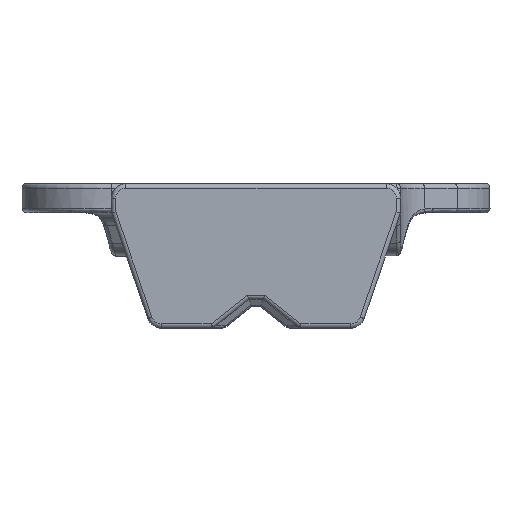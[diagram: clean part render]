
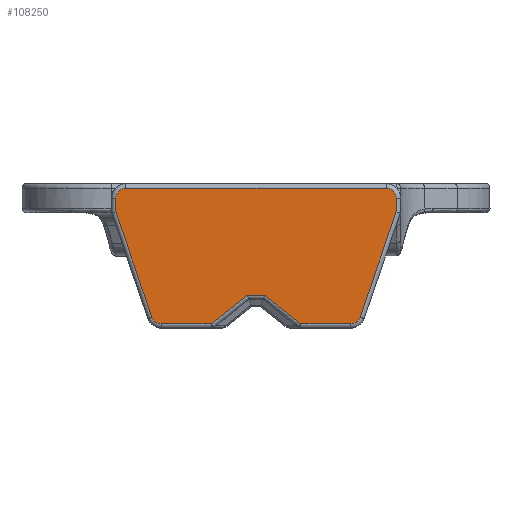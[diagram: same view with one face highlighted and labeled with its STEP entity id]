
A CAD part, left-side view. The second image highlights one B-rep face of the part: STEP entity #108250.
In plain terms, the highlighted planar face has unit normal (-1, 0, 0) as drawn and (1, 0, 0) by its records, which use the part's own axes.
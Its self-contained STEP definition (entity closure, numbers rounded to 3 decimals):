
#130=CARTESIAN_POINT('',(52.95,0.605,
2.1));
#140=VERTEX_POINT('',#130);
#300=CARTESIAN_POINT('',(52.95,-0.605,
2.1));
#310=VERTEX_POINT('',#300);
#340=CARTESIAN_POINT('',(52.95,0.,
2.1));
#350=DIRECTION('',(0.,1.,0.));
#360=VECTOR('',#350,1.);
#370=LINE('',#340,#360);
#380=EDGE_CURVE('',#310,#140,#370,.T.);
#1190=CARTESIAN_POINT('',(52.95,6.536,
0.1));
#1200=VERTEX_POINT('',#1190);
#1250=CARTESIAN_POINT('',(52.95,6.536,
0.8));
#1260=DIRECTION('',(1.,0.,0.));
#1270=DIRECTION('',(0.,0.,1.));
#1280=AXIS2_PLACEMENT_3D('',#1250,#1260,#1270);
#1290=CIRCLE('',#1280,0.7);
#1300=CARTESIAN_POINT('',(52.95,7.198,
0.572));
#1310=VERTEX_POINT('',#1300);
#1320=EDGE_CURVE('',#1200,#1310,#1290,.T.);
#52720=CARTESIAN_POINT('',(52.95,-9.,
9.5));
#52730=VERTEX_POINT('',#52720);
#52760=CARTESIAN_POINT('',(52.95,-9.,
8.8));
#52770=DIRECTION('',(-1.,0.,0.));
#52780=DIRECTION('',(0.,0.,-1.));
#52790=AXIS2_PLACEMENT_3D('',#52760,#52770,#52780);
#52800=CIRCLE('',#52790,0.7);
#52810=CARTESIAN_POINT('',(52.95,-9.7,
8.8));
#52820=VERTEX_POINT('',#52810);
#52830=EDGE_CURVE('',#52820,#52730,#52800,.T.);
#59050=CARTESIAN_POINT('',(52.95,9.,
9.5));
#59060=VERTEX_POINT('',#59050);
#59090=CARTESIAN_POINT('',(52.95,0.,
9.5));
#59100=DIRECTION('',(0.,1.,0.));
#59110=VECTOR('',#59100,1.);
#59120=LINE('',#59090,#59110);
#59130=EDGE_CURVE('',#52730,#59060,#59120,.T.);
#61720=CARTESIAN_POINT('',(52.95,9.7,
8.8));
#61730=VERTEX_POINT('',#61720);
#61760=CARTESIAN_POINT('',(52.95,9.,
8.8));
#61770=DIRECTION('',(1.,0.,0.));
#61780=DIRECTION('',(0.,0.,1.));
#61790=AXIS2_PLACEMENT_3D('',#61760,#61770,#61780);
#61800=CIRCLE('',#61790,0.7);
#61810=EDGE_CURVE('',#61730,#59060,#61800,.T.);
#62060=CARTESIAN_POINT('',(52.95,-7.198,
0.572));
#62070=VERTEX_POINT('',#62060);
#62210=CARTESIAN_POINT('',(52.95,-9.7,7.85));
#62220=VERTEX_POINT('',#62210);
#62250=CARTESIAN_POINT('',(52.95,-7.002,
0.));
#62260=DIRECTION('',(0.,-0.325,
0.946));
#62270=VECTOR('',#62260,1.);
#62280=LINE('',#62250,#62270);
#62290=EDGE_CURVE('',#62070,#62220,#62280,.T.);
#63130=CARTESIAN_POINT('',(52.95,-9.7,
0.));
#63140=DIRECTION('',(0.,0.,1.));
#63150=VECTOR('',#63140,1.);
#63160=LINE('',#63130,#63150);
#63170=EDGE_CURVE('',#62220,#52820,#63160,.T.);
#68510=CARTESIAN_POINT('',(52.95,-6.536,
0.8));
#68520=DIRECTION('',(-1.,0.,0.));
#68530=DIRECTION('',(0.,0.,-1.));
#68540=AXIS2_PLACEMENT_3D('',#68510,#68520,#68530);
#68550=CIRCLE('',#68540,0.7);
#68560=CARTESIAN_POINT('',(52.95,-6.536,
0.1));
#68570=VERTEX_POINT('',#68560);
#68580=EDGE_CURVE('',#68570,#62070,#68550,.T.);
#73120=CARTESIAN_POINT('',(52.95,9.7,
7.85));
#73130=VERTEX_POINT('',#73120);
#73180=CARTESIAN_POINT('',(52.95,7.002,
0.));
#73190=DIRECTION('',(0.,0.325,
0.946));
#73200=VECTOR('',#73190,1.);
#73210=LINE('',#73180,#73200);
#73220=EDGE_CURVE('',#1310,#73130,#73210,.T.);
#76880=CARTESIAN_POINT('',(52.95,3.105,
0.1));
#76890=VERTEX_POINT('',#76880);
#77290=CARTESIAN_POINT('',(52.95,0.,
2.584));
#77300=DIRECTION('',(0.,-0.781,
0.625));
#77310=VECTOR('',#77300,1.);
#77320=LINE('',#77290,#77310);
#77330=EDGE_CURVE('',#76890,#140,#77320,.T.);
#79820=CARTESIAN_POINT('',(52.95,-3.105,
0.1));
#79830=VERTEX_POINT('',#79820);
#79860=CARTESIAN_POINT('',(52.95,0.,
2.584));
#79870=DIRECTION('',(0.,-0.781,
-0.625));
#79880=VECTOR('',#79870,1.);
#79890=LINE('',#79860,#79880);
#79900=EDGE_CURVE('',#310,#79830,#79890,.T.);
#102320=CARTESIAN_POINT('',(52.95,0.,
0.1));
#102330=DIRECTION('',(0.,-1.,0.));
#102340=VECTOR('',#102330,1.);
#102350=LINE('',#102320,#102340);
#102360=EDGE_CURVE('',#1200,#76890,#102350,.T.);
#105740=CARTESIAN_POINT('',(52.95,0.,
0.1));
#105750=DIRECTION('',(0.,-1.,0.));
#105760=VECTOR('',#105750,1.);
#105770=LINE('',#105740,#105760);
#105780=EDGE_CURVE('',#79830,#68570,#105770,.T.);
#107990=CARTESIAN_POINT('',(52.95,5.25,
-0.2));
#108000=DIRECTION('',(-1.,0.,0.));
#108010=DIRECTION('',(0.,1.,0.));
#108020=AXIS2_PLACEMENT_3D('',#107990,#108000,#108010);
#108030=PLANE('',#108020);
#108040=ORIENTED_EDGE('',*,*,#77330,.F.);
#108050=ORIENTED_EDGE('',*,*,#380,.T.);
#108060=ORIENTED_EDGE('',*,*,#79900,.F.);
#108070=ORIENTED_EDGE('',*,*,#105780,.F.);
#108080=ORIENTED_EDGE('',*,*,#68580,.F.);
#108090=ORIENTED_EDGE('',*,*,#62290,.F.);
#108100=ORIENTED_EDGE('',*,*,#63170,.F.);
#108110=ORIENTED_EDGE('',*,*,#52830,.F.);
#108120=ORIENTED_EDGE('',*,*,#59130,.F.);
#108130=ORIENTED_EDGE('',*,*,#61810,.T.);
#108140=CARTESIAN_POINT('',(52.95,9.7,
0.));
#108150=DIRECTION('',(0.,0.,1.));
#108160=VECTOR('',#108150,1.);
#108170=LINE('',#108140,#108160);
#108180=EDGE_CURVE('',#73130,#61730,#108170,.T.);
#108190=ORIENTED_EDGE('',*,*,#108180,.T.);
#108200=ORIENTED_EDGE('',*,*,#73220,.T.);
#108210=ORIENTED_EDGE('',*,*,#1320,.T.);
#108220=ORIENTED_EDGE('',*,*,#102360,.F.);
#108230=EDGE_LOOP('',(#108220,#108210,#108200,#108190,#108130,#108120,
#108110,#108100,#108090,#108080,#108070,#108060,#108050,#108040));
#108240=FACE_OUTER_BOUND('',#108230,.T.);
#108250=ADVANCED_FACE('',(#108240),#108030,.F.);
